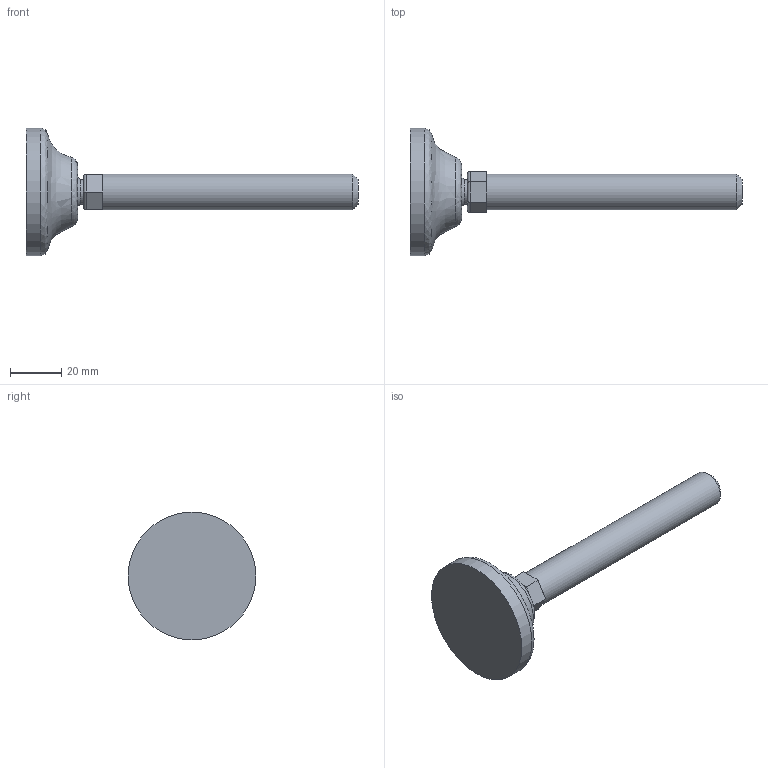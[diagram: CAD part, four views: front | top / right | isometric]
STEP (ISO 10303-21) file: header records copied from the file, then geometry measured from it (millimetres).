
FILE_DESCRIPTION(('STEP AP203'),'2;1');
FILE_NAME('10264.stp','2017-01-19T16:26:33',(''),(''),'2008.1.107','THINKDESIGN','');
FILE_SCHEMA(('CONFIG_CONTROL_DESIGN'));
Length unit declared in the file: millimetre
Bounding box: 130 x 50 x 50 mm (x, y, z)
Volume: 42290.4 mm3; surface area: 11224.3 mm2
Topology: 4 solids, 4 shells, 28 faces, 60 edges, 40 vertices
Faces by surface type: plane 14, cylinder 9, bspline 5
Full cylindrical faces by diameter (mm): 9.747 x1, 14 x1, 50 x1
Entity records: 1097 total; most frequent: CARTESIAN_POINT 399, DIRECTION 126, ORIENTED_EDGE 120, EDGE_CURVE 60, AXIS2_PLACEMENT_3D 49, VERTEX_POINT 40, EDGE_LOOP 28, FACE_OUTER_BOUND 28
